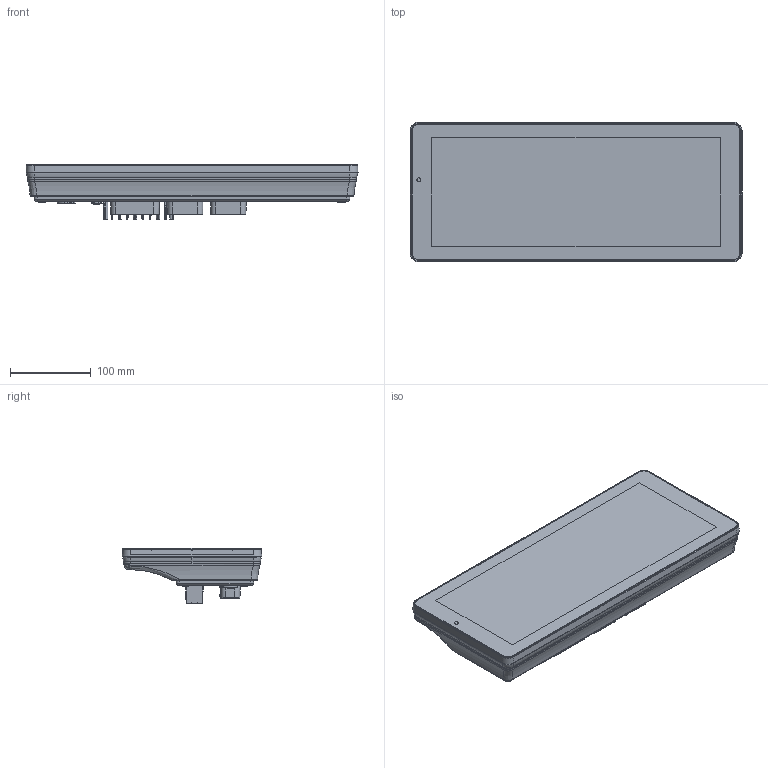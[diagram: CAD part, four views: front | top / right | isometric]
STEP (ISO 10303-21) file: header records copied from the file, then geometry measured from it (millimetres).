
FILE_DESCRIPTION (( 'STEP AP214' ), '1' );
FILE_NAME ('PRISONER 15.STEP', '2022-10-31T20:42:32', ( '' ), ( '' ), 'SwSTEP 2.0', 'SolidWorks 2022', '' );
FILE_SCHEMA (( 'AUTOMOTIVE_DESIGN' ));
Length unit declared in the file: millimetre
Products named in the file (1): PRISONER 15
Bounding box: 410.61 x 172.61 x 68.26 mm (x, y, z)
Volume: 2603431.2 mm3; surface area: 242064.7 mm2
Topology: 1 solids, 1 shells, 3978 faces, 10045 edges, 6110 vertices
Faces by surface type: bspline 2029, cylinder 877, plane 575, cone 253, torus 174, sphere 70
Full cylindrical faces by diameter (mm): 0.5 x2, 1.25 x81, 1.5 x1, 2.1 x2, 3.25 x2, 3.67 x4, 5 x5, 9 x1, 9.95 x1, 17 x1
Entity records: 198740 total; most frequent: CARTESIAN_POINT 99693, ORIENTED_EDGE 19138, EDGE_CURVE 9569, DIRECTION 9057, VERTEX_POINT 6010, B_SPLINE_CURVE_WITH_KNOTS 5539, EDGE_LOOP 4431, FACE_OUTER_BOUND 4101
